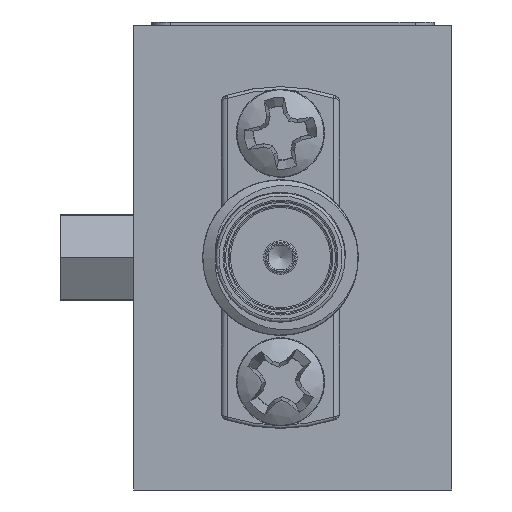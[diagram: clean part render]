
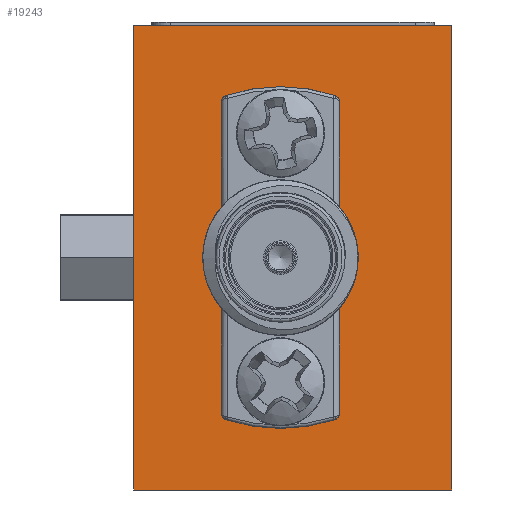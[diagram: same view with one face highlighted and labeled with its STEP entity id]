
A CAD part, left-side view. The second image highlights one B-rep face of the part: STEP entity #19243.
In plain terms, the highlighted planar face has unit normal (-1, 0, 0).
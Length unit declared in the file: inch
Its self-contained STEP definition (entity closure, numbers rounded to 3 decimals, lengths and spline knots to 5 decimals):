
#464 = LINE ( 'NONE', #30445, #7294 ) ;
#624 = DIRECTION ( 'NONE',  ( -1., 0., 0. ) ) ;
#813 = AXIS2_PLACEMENT_3D ( 'NONE', #17555, #2012, #8302 ) ;
#1435 = CARTESIAN_POINT ( 'NONE',  ( 0., 0.27559, -0.57402 ) ) ;
#1545 = CARTESIAN_POINT ( 'NONE',  ( 0., 0., 0. ) ) ;
#2012 = DIRECTION ( 'NONE',  ( 1., 0., 0. ) ) ;
#2086 = VERTEX_POINT ( 'NONE', #3286 ) ;
#3286 = CARTESIAN_POINT ( 'NONE',  ( 0., 0.51181, -0.74803 ) ) ;
#3528 = ORIENTED_EDGE ( 'NONE', *, *, #21282, .F. ) ;
#3607 = CARTESIAN_POINT ( 'NONE',  ( 0., 0.27559, -0.13102 ) ) ;
#5114 = DIRECTION ( 'NONE',  ( 0., -1., 0. ) ) ;
#6291 = CARTESIAN_POINT ( 'NONE',  ( 0., 0.51181, 0. ) ) ;
#6340 = CARTESIAN_POINT ( 'NONE',  ( 0., 0.27559, -0.17402 ) ) ;
#7071 = DIRECTION ( 'NONE',  ( 0., 0., 1. ) ) ;
#7294 = VECTOR ( 'NONE', #12269, 39.37008 ) ;
#8302 = DIRECTION ( 'NONE',  ( 0., 0., -1. ) ) ;
#10102 = CARTESIAN_POINT ( 'NONE',  ( 0., 0.51181, 0. ) ) ;
#11009 = LINE ( 'NONE', #17316, #29804 ) ;
#11440 = FACE_BOUND ( 'NONE', #12399, .T. ) ;
#11643 = PLANE ( 'NONE',  #813 ) ;
#11845 = FACE_OUTER_BOUND ( 'NONE', #19899, .T. ) ;
#12015 = EDGE_CURVE ( 'NONE', #35540, #16705, #464, .T. ) ;
#12269 = DIRECTION ( 'NONE',  ( 0., 0., 1. ) ) ;
#12399 = EDGE_LOOP ( 'NONE', ( #35391 ) ) ;
#12439 = DIRECTION ( 'NONE',  ( 0., 0., 1. ) ) ;
#12562 = ORIENTED_EDGE ( 'NONE', *, *, #12015, .T. ) ;
#14764 = CIRCLE ( 'NONE', #21515, 0.043 ) ;
#15132 = EDGE_CURVE ( 'NONE', #2086, #35540, #11009, .T. ) ;
#15690 = ORIENTED_EDGE ( 'NONE', *, *, #34047, .F. ) ;
#15702 = ORIENTED_EDGE ( 'NONE', *, *, #17634, .F. ) ;
#16705 = VERTEX_POINT ( 'NONE', #1545 ) ;
#17316 = CARTESIAN_POINT ( 'NONE',  ( 0., 0.51181, -0.74803 ) ) ;
#17555 = CARTESIAN_POINT ( 'NONE',  ( 0., 0.51181, 0. ) ) ;
#17634 = EDGE_CURVE ( 'NONE', #25311, #16705, #36932, .T. ) ;
#18284 = EDGE_LOOP ( 'NONE', ( #15690 ) ) ;
#18919 = VERTEX_POINT ( 'NONE', #3607 ) ;
#19243 = ADVANCED_FACE ( 'NONE', ( #11440, #35119, #11845 ), #11643, .F. ) ;
#19791 = VECTOR ( 'NONE', #7071, 39.37008 ) ;
#19899 = EDGE_LOOP ( 'NONE', ( #12562, #15702, #3528, #22044 ) ) ;
#21169 = CARTESIAN_POINT ( 'NONE',  ( 0., 0.51181, 0. ) ) ;
#21282 = EDGE_CURVE ( 'NONE', #2086, #25311, #27629, .T. ) ;
#21515 = AXIS2_PLACEMENT_3D ( 'NONE', #1435, #28879, #25553 ) ;
#21836 = CARTESIAN_POINT ( 'NONE',  ( 0., 0.27559, -0.53102 ) ) ;
#22044 = ORIENTED_EDGE ( 'NONE', *, *, #15132, .T. ) ;
#25170 = VECTOR ( 'NONE', #33983, 39.37008 ) ;
#25311 = VERTEX_POINT ( 'NONE', #21169 ) ;
#25553 = DIRECTION ( 'NONE',  ( 0., 0., 1. ) ) ;
#27629 = LINE ( 'NONE', #6291, #19791 ) ;
#28879 = DIRECTION ( 'NONE',  ( -1., 0., 0. ) ) ;
#29804 = VECTOR ( 'NONE', #5114, 39.37008 ) ;
#30435 = CARTESIAN_POINT ( 'NONE',  ( 0., 0., -0.74803 ) ) ;
#30445 = CARTESIAN_POINT ( 'NONE',  ( 0., 0., 0. ) ) ;
#32906 = EDGE_CURVE ( 'NONE', #36137, #36137, #14764, .T. ) ;
#33983 = DIRECTION ( 'NONE',  ( 0., -1., 0. ) ) ;
#34047 = EDGE_CURVE ( 'NONE', #18919, #18919, #34083, .T. ) ;
#34083 = CIRCLE ( 'NONE', #37225, 0.043 ) ;
#35119 = FACE_BOUND ( 'NONE', #18284, .T. ) ;
#35391 = ORIENTED_EDGE ( 'NONE', *, *, #32906, .F. ) ;
#35540 = VERTEX_POINT ( 'NONE', #30435 ) ;
#36137 = VERTEX_POINT ( 'NONE', #21836 ) ;
#36932 = LINE ( 'NONE', #10102, #25170 ) ;
#37225 = AXIS2_PLACEMENT_3D ( 'NONE', #6340, #624, #12439 ) ;
